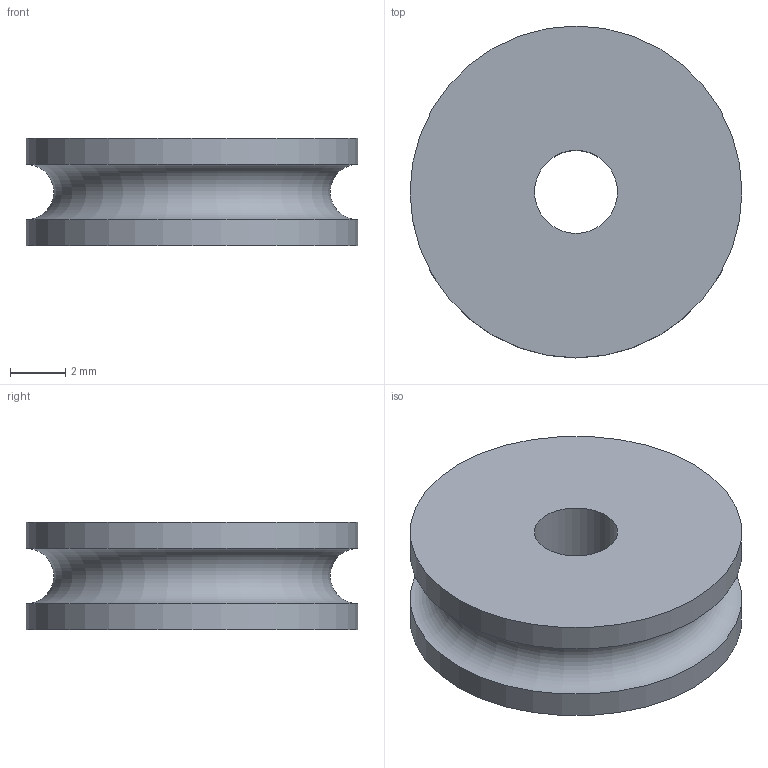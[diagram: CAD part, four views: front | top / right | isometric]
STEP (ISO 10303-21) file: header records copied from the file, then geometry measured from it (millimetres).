
FILE_DESCRIPTION((''),'2;1');
FILE_NAME('I:\Gleitlager\Vertrieb\Labor\robolink\Vertrieb-Tim\Step Daten\RL-SD-SR-02-0312-04.stp','2011-06-30T11:36:51',('MRaak'),(''),'Autodesk Inventor 2011','Autodesk Inventor 2011','');
FILE_SCHEMA(('AUTOMOTIVE_DESIGN { 1 0 10303 214 1 1 1 1 }'));
Length unit declared in the file: millimetre
Products named in the file (1): RL-SD-SR-02-0312-04
Bounding box: 12 x 12 x 3.9 mm (x, y, z)
Volume: 358.5 mm3; surface area: 426.3 mm2
Topology: 1 solids, 1 shells, 6 faces, 10 edges, 6 vertices
Faces by surface type: cylinder 3, plane 2, torus 1
Full cylindrical faces by diameter (mm): 3 x1, 12 x2
Entity records: 154 total; most frequent: DIRECTION 26, CARTESIAN_POINT 19, AXIS2_PLACEMENT_3D 13, ORIENTED_EDGE 12, EDGE_LOOP 12, VERTEX_POINT 6, CIRCLE 6, EDGE_CURVE 6
